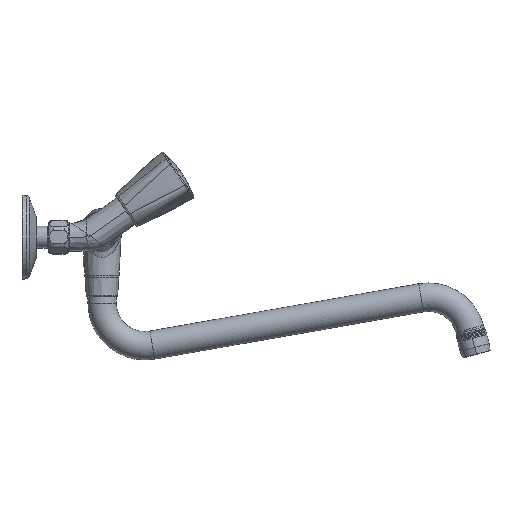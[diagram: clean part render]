
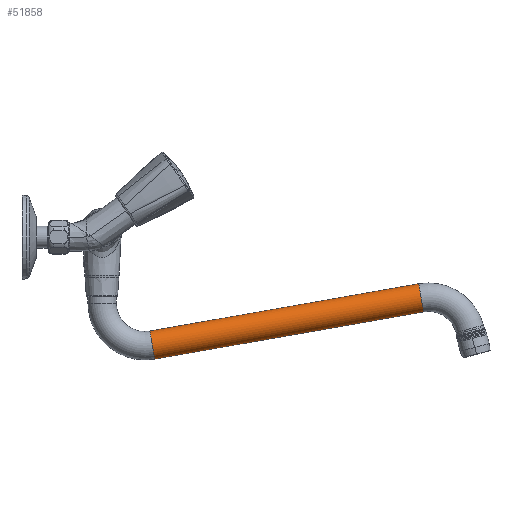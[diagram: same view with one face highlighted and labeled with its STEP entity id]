
A CAD part, top view. The second image highlights one B-rep face of the part: STEP entity #51858.
In plain terms, the highlighted cylindrical face has radius 11 mm (diameter 22 mm), a partial arc.
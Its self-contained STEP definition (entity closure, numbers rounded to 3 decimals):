
#51520=CARTESIAN_POINT('',(38.912,-50.502,0.));
#51521=DIRECTION('',(0.985,0.173,0.));
#51522=DIRECTION('',(-0.173,0.985,0.));
#51523=AXIS2_PLACEMENT_3D('',#51520,#51521,#51522);
#51525=DIRECTION('',(0.985,0.173,0.));
#51526=VECTOR('',#51525,211.);
#51527=CARTESIAN_POINT('',(37.008,-39.668,0.));
#51528=LINE('',#51527,#51526);
#51534=DIRECTION('',(0.985,0.173,0.));
#51535=VECTOR('',#51534,211.);
#51536=CARTESIAN_POINT('',(40.816,-61.336,0.));
#51537=LINE('',#51536,#51535);
#51548=CARTESIAN_POINT('',(246.727,-13.976,0.));
#51549=DIRECTION('',(0.985,0.173,0.));
#51550=DIRECTION('',(-0.173,0.985,0.));
#51551=AXIS2_PLACEMENT_3D('',#51548,#51549,#51550);
#51734=CARTESIAN_POINT('',(37.008,-39.668,0.));
#51735=CARTESIAN_POINT('',(40.816,-61.336,0.));
#51736=VERTEX_POINT('',#51734);
#51737=VERTEX_POINT('',#51735);
#51742=CARTESIAN_POINT('',(244.822,-3.142,0.));
#51743=CARTESIAN_POINT('',(248.631,-24.81,0.));
#51744=VERTEX_POINT('',#51742);
#51745=VERTEX_POINT('',#51743);
#51844=CARTESIAN_POINT('',(38.912,-50.502,0.));
#51845=DIRECTION('',(0.985,0.173,0.));
#51846=DIRECTION('',(-0.173,0.985,0.));
#51847=AXIS2_PLACEMENT_3D('',#51844,#51845,#51846);
#51848=CYLINDRICAL_SURFACE('',#51847,11.);
#51849=ORIENTED_EDGE('',*,*,#51838,.F.);
#51851=ORIENTED_EDGE('',*,*,#51850,.T.);
#51853=ORIENTED_EDGE('',*,*,#51852,.T.);
#51855=ORIENTED_EDGE('',*,*,#51854,.F.);
#51856=EDGE_LOOP('',(#51849,#51851,#51853,#51855));
#51857=FACE_OUTER_BOUND('',#51856,.F.);
#51858=ADVANCED_FACE('',(#51857),#51848,.T.);
#51524=CIRCLE('',#51523,11.);
#51552=CIRCLE('',#51551,11.);
#51838=EDGE_CURVE('',#51736,#51737,#51524,.T.);
#51850=EDGE_CURVE('',#51736,#51744,#51528,.T.);
#51852=EDGE_CURVE('',#51744,#51745,#51552,.T.);
#51854=EDGE_CURVE('',#51737,#51745,#51537,.T.);
